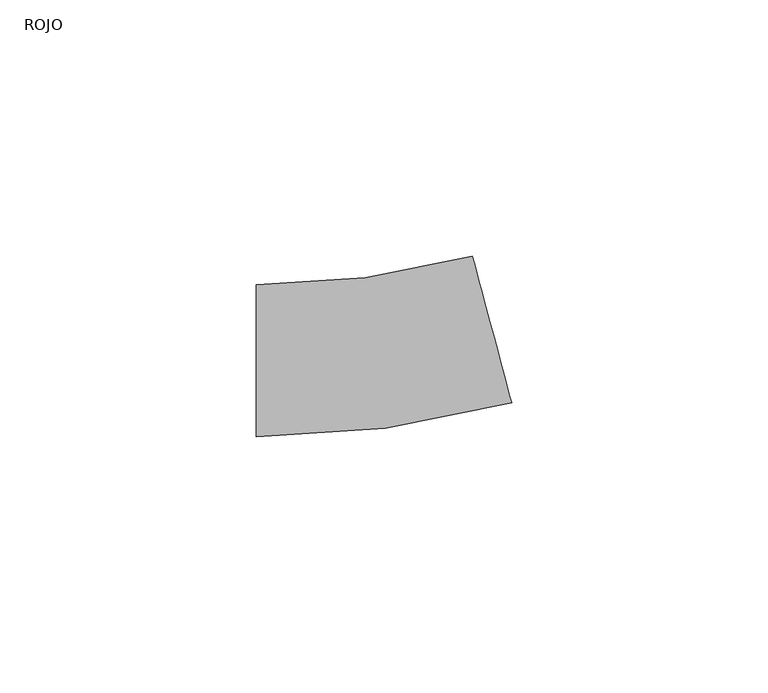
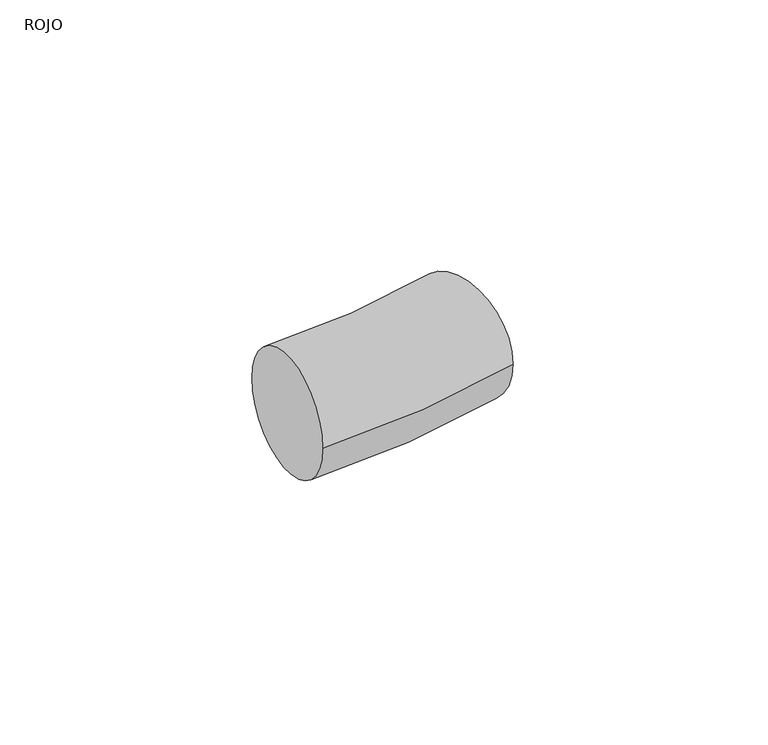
"""IFC4 building model written with IfcOpenShell, lengths in millimetres: pipe fitting geometry, AmancoWavin_UnionesdeTubería_TigrisFlexTuberíaFlexible : ROJO."""

from ifc_helpers import new_model, si_unit, point, frame, origin, place, context, project, spatial, circle_curve, ellipse_curve, trimmed, source, transform, mapped, element, save
from ifc_brep_helpers import plane_surface, revolved_surface, advanced_brep


def rojo_abdd4356(model_context):
    return source(origin(), model_context, "Body", "AdvancedBrep", [
        advanced_brep(
        [(-23.3814836, -14.8, 0.0), (-23.3814836, 14.8, 0.0), (26.4153007, -8.244129, 0.0), (18.754257, 20.3472755, 0.0)],
        [
            (0, 1, circle_curve(frame((-23.3814836, 0.0, 0.0), z_axis=(-1.0, 0.0, 0.0), x_axis=(0.0, 1.0, 0.0)), 14.8)),
            (1, 0, circle_curve(frame((-23.3814836, 0.0, 0.0), z_axis=(-1.0, 0.0, 0.0), x_axis=(0.0, 1.0, 0.0)), 14.8)),
            (2, 3, circle_curve(frame((22.5847788, 6.0515733, 0.0), z_axis=(0.9659258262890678, 0.2588190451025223, 0.0), x_axis=(-0.2588190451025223, 0.9659258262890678, 0.0)), 14.8)),
            (3, 2, circle_curve(frame((22.5847788, 6.0515733, 0.0), z_axis=(0.9659258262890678, 0.2588190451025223, 0.0), x_axis=(-0.2588190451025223, 0.9659258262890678, 0.0)), 14.8)),
            (3, 1, circle_curve(frame((-23.3814836, 177.6, 0.0), z_axis=(0.0, 0.0, -1.0), x_axis=(0.0, -1.0, 0.0)), 162.8)),
            (0, 2, circle_curve(frame((-23.3814836, 177.6, 0.0), z_axis=(0.0, 0.0, 1.0), x_axis=(0.0, -1.0, 0.0)), 192.4)),
        ],
        [
            plane_surface(frame((-23.3814836, 0.0, 0.0), z_axis=(-1.0, 0.0, 0.0), x_axis=(0.0, 0.0, 1.0))),
            plane_surface(frame((22.5847788, 6.0515733, 0.0), z_axis=(0.9659258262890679, 0.2588190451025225, 0.0), x_axis=(0.0, 0.0, 1.0))),
            revolved_surface(trimmed(ellipse_curve(frame((-23.3814836, 0.0, 0.0), z_axis=(-1.0, 0.0, 0.0), x_axis=(0.0, 1.0, 0.0)), 14.8, 14.8), [point((-23.3814836, -14.8, 0.0))], [point((-23.3814836, 14.8, 0.0))], True, "CARTESIAN"), (-23.3814836, 177.6, 0.0), (0.0, 0.0, 1.0)),
            revolved_surface(trimmed(ellipse_curve(frame((-23.3814836, 0.0, 0.0), z_axis=(-1.0, 0.0, 0.0), x_axis=(0.0, 1.0, 0.0)), 14.8, 14.8), [point((-23.3814836, 14.8, 0.0))], [point((-23.3814836, -14.8, 0.0))], True, "CARTESIAN"), (-23.3814836, 177.6, 0.0), (0.0, 0.0, 1.0)),
        ],
        [
            (0, [[1, 2]]),
            (1, [[3, 4]]),
            (2, [[5, -1, 6, -4]]),
            (3, [[-6, -2, -5, -3]]),
        ],
    ),
    ])


if __name__ == "__main__":
    model = new_model("IFC4")
    model_context = context("Model", 3, world=origin())
    ifc_project = project(units=[si_unit("LENGTHUNIT", "METRE", prefix="MILLI")], contexts=[model_context])
    site = spatial("IfcSite", under=ifc_project)
    building = spatial("IfcBuilding", under=site)
    placement = place(None, origin())
    rojo_shape = rojo_abdd4356(model_context)
    element("IfcPipeFitting", 1, ObjectType="AmancoWavin_UnionesdeTubería_TigrisFlexTuberíaFlexible : ROJO", at=placement, inside=building, context=model_context, shape_type="MappedRepresentation", body=[
        mapped(rojo_shape, transform((0.0, 0.0, 0.0), x_axis=(1.0, 0.0, 0.0), y_axis=(0.0, 1.0, 0.0), z_axis=(0.0, 0.0, 1.0))),
    ])
    save(model, "model.ifc")
